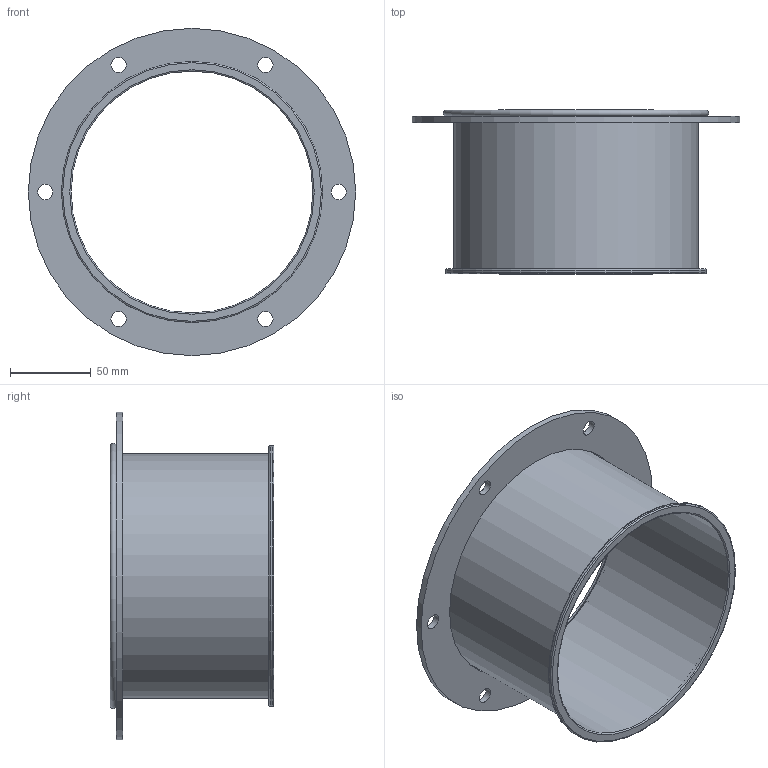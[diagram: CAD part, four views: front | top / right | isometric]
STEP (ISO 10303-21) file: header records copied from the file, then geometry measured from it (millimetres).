
FILE_DESCRIPTION(/* description */ (''),/* implementation_level */ '2;1');
FILE_NAME(/* name */ 'EA124-41B.stp',/* time_stamp */ '2021-02-23T13:43:44+01:00',/* author */ (''),/* organization */ (''),/* preprocessor_version */ 'ST-DEVELOPER v11',/* originating_system */ 'SIEMENS UGS NX 6.0',/* authorisation */ '');
FILE_SCHEMA (('CONFIG_CONTROL_DESIGN'));
Length unit declared in the file: millimetre
Products named in the file (1): gars4FD7yzgq
Bounding box: 203 x 101.5 x 203 mm (x, y, z)
Volume: 111574.2 mm3; surface area: 152381.2 mm2
Topology: 3 solids, 3 shells, 30 faces, 65 edges, 45 vertices
Faces by surface type: cylinder 15, plane 10, torus 5
Full cylindrical faces by diameter (mm): 9.5 x6, 150 x2, 151.6 x2, 153 x1, 161.6 x2, 162 x1, 203 x1
Entity records: 782 total; most frequent: DIRECTION 134, CARTESIAN_POINT 103, FACE_BOUND 72, EDGE_LOOP 72, ORIENTED_EDGE 72, AXIS2_PLACEMENT_3D 67, VERTEX_POINT 36, EDGE_CURVE 36
